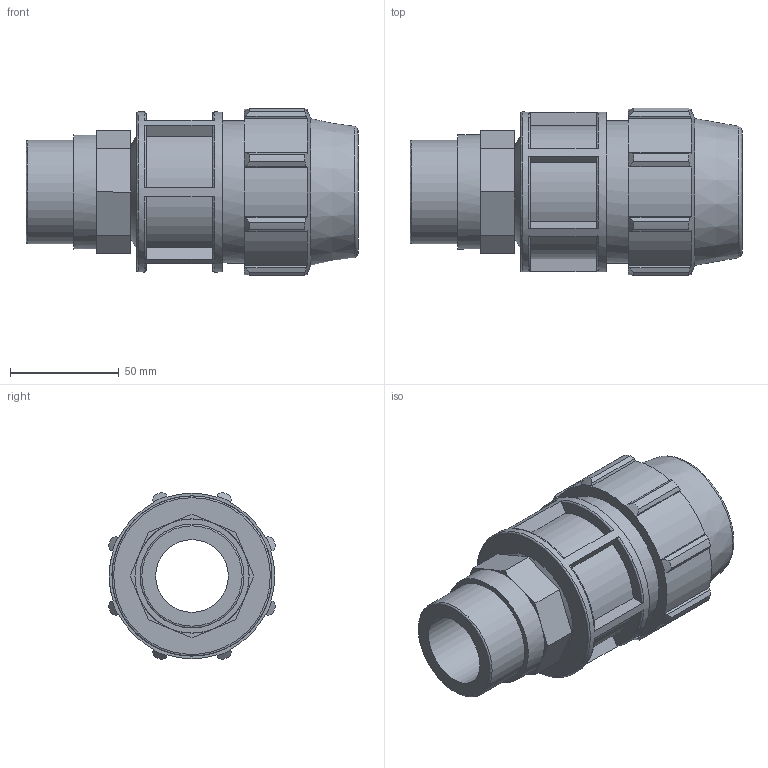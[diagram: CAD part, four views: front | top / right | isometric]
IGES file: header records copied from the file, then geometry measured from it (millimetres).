
Global section: file name: 077200040015_187200040015_0772060400150A.ipt; native system: Autodesk Inventor 2015; preprocessor: unknown; author: KIM; date: 20170606.174252; units: millimetre
Bounding box: 153 x 77.16 x 77.16 mm (x, y, z)
Volume: 308758.9 mm3; surface area: 63498.9 mm2
Topology: 1 solids, 1 shells, 137 faces, 368 edges, 245 vertices
Faces by surface type: plane 81, cylinder 26, revolution 19, cone 11
Full cylindrical faces by diameter (mm): 47.803 x1, 52.583 x1, 65.6 x1, 73.8 x1
